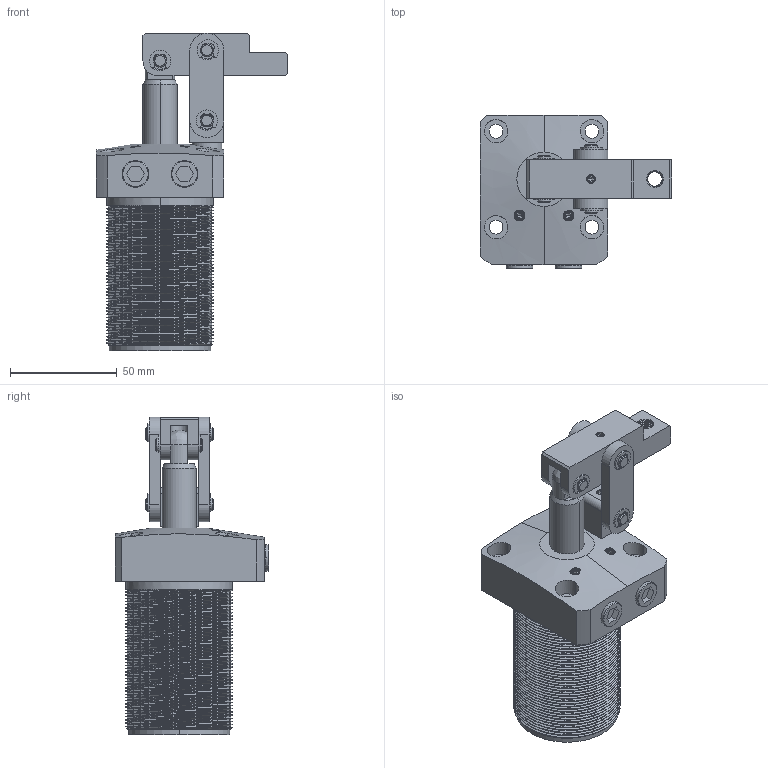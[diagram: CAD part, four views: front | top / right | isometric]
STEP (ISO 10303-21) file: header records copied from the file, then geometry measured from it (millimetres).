
FILE_DESCRIPTION (( 'STEP AP214' ), '1' );
FILE_NAME ('LHC01D-32R.STEP', '2019-04-19T12:14:11', ( '' ), ( '' ), 'SwSTEP 2.0', 'SolidWorks 2016', '' );
FILE_SCHEMA (( 'AUTOMOTIVE_DESIGN' ));
Length unit declared in the file: millimetre
Products named in the file (12): 6_2; 5_2; 4_2; LHC01D32活塞杆; LHC01D-32R; LHC01D32R掛极; 黑芛_6; 12_2; 11_2; 10_2; 8_2; 7_2
Assembly tree (28 placements, depth 2):
  LHC01D-32R
    LHC01D32活塞杆
    4_2
    5_2
    6_2  x2
    7_2
    8_2  x2
    10_2  x6
    11_2  x6
    12_2  x5
    黑芛_6  x2
    LHC01D32R掛极
Bounding box: 90 x 72 x 149 mm (x, y, z)
Volume: 241092.7 mm3; surface area: 71930.4 mm2
Topology: 28 solids, 35 shells, 1617 faces, 4164 edges, 2637 vertices
Faces by surface type: cylinder 712, cone 686, plane 214, torus 4, bspline 1
Entity records: 75424 total; most frequent: CARTESIAN_POINT 45000, ORIENTED_EDGE 7048, DIRECTION 4887, EDGE_CURVE 3524, VERTEX_POINT 2227, B_SPLINE_CURVE_WITH_KNOTS 1822, AXIS2_PLACEMENT_3D 1800, EDGE_LOOP 1419
